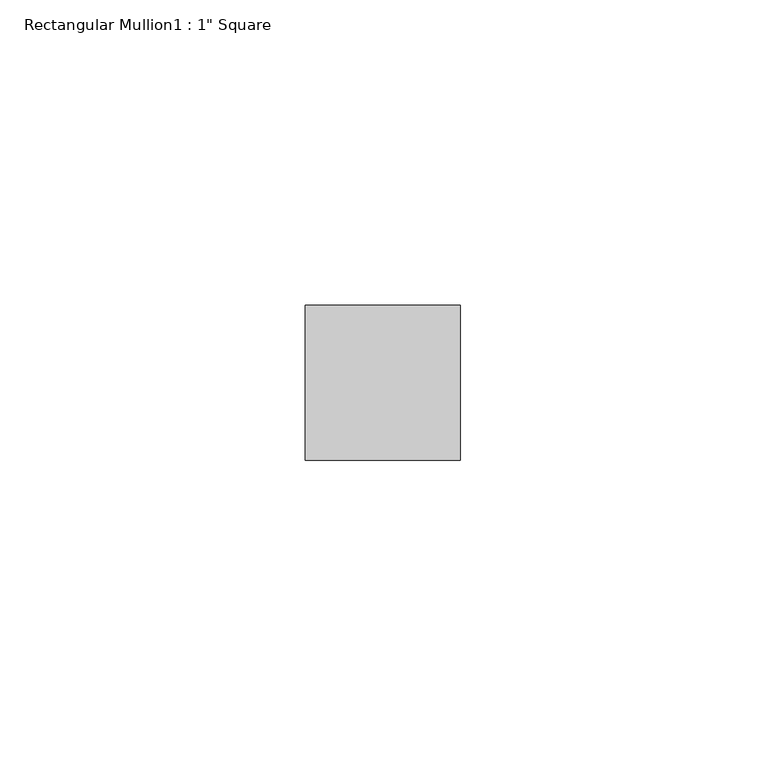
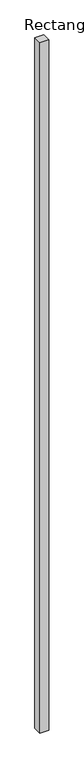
"""IFC4 building model written with IfcOpenShell, lengths in millimetres: member geometry."""

from ifc_helpers import new_model, si_unit, frame, origin, place, context, project, spatial, polyline, outline, extrude, source, transform, mapped, element, save


def member_99ddd2ca(model_context):
    return source(origin(), model_context, "Body", "SweptSolid", [
        extrude(outline(polyline([(12.7, -19.05), (12.7, -44.45), (-12.7, -44.45), (-12.7, -19.05), (12.7, -19.05)])), frame((0.0, 0.0, -2108.2), z_axis=(0.0, 0.0, 1.0), x_axis=(1.0, 0.0, 0.0)), (0.0, 0.0, 1.0), 2108.2),
    ])


if __name__ == "__main__":
    model = new_model("IFC4")
    model_context = context("Model", 3, world=origin())
    ifc_project = project(units=[si_unit("LENGTHUNIT", "METRE", prefix="MILLI")], contexts=[model_context])
    site = spatial("IfcSite", under=ifc_project)
    building = spatial("IfcBuilding", under=site)
    placement = place(None, origin())
    member_shape = member_99ddd2ca(model_context)
    element("IfcMember", 1, ObjectType="Rectangular Mullion1 : 1\" Square", at=placement, inside=building, context=model_context, shape_type="MappedRepresentation", body=[
        mapped(member_shape, transform((0.0, 0.0, 0.0), x_axis=(1.0, 0.0, 0.0), y_axis=(0.0, 1.0, 0.0), z_axis=(0.0, 0.0, 1.0))),
    ])
    save(model, "model.ifc")
